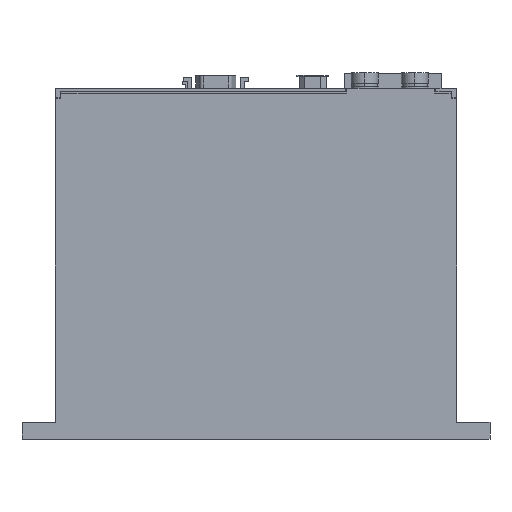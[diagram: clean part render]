
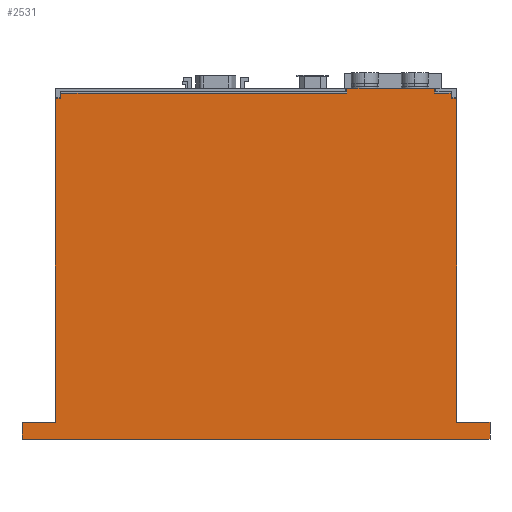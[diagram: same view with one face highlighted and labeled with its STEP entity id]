
A CAD part, left-side view. The second image highlights one B-rep face of the part: STEP entity #2531.
In plain terms, the highlighted planar face has unit normal (-1, 0, 0).
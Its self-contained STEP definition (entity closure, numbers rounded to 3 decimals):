
#1700 = VERTEX_POINT ( 'NONE', #7888 ) ;
#1707 = VERTEX_POINT ( 'NONE', #7877 ) ;
#1709 = EDGE_CURVE ( 'NONE', #1707, #1700, #7876, .T. ) ;
#1742 = VERTEX_POINT ( 'NONE', #7941 ) ;
#1789 = VERTEX_POINT ( 'NONE', #8048 ) ;
#1791 = EDGE_CURVE ( 'NONE', #1789, #1707, #8047, .T. ) ;
#1836 = VERTEX_POINT ( 'NONE', #8101 ) ;
#1860 = EDGE_CURVE ( 'NONE', #1861, #1862, #8184, .T. ) ;
#1861 = VERTEX_POINT ( 'NONE', #8180 ) ;
#1862 = VERTEX_POINT ( 'NONE', #8179 ) ;
#2531 = ADVANCED_FACE ( 'NONE', ( #9242 ), #9241, .F. ) ;
#2532 = EDGE_LOOP ( 'NONE', ( #2533, #2536, #2539, #2541, #2542, #2608, #2610, #2611, #2612, #2615, #2617, #2595, #2597, #2598, #2600, #2601, #2603, #2604 ) ) ;
#2533 = ORIENTED_EDGE ( 'NONE', *, *, #2534, .T. ) ;
#2534 = EDGE_CURVE ( 'NONE', #2535, #1836, #9297, .T. ) ;
#2535 = VERTEX_POINT ( 'NONE', #9293 ) ;
#2536 = ORIENTED_EDGE ( 'NONE', *, *, #2537, .T. ) ;
#2537 = EDGE_CURVE ( 'NONE', #1836, #2538, #9292, .T. ) ;
#2538 = VERTEX_POINT ( 'NONE', #9288 ) ;
#2539 = ORIENTED_EDGE ( 'NONE', *, *, #2540, .F. ) ;
#2540 = EDGE_CURVE ( 'NONE', #1862, #2538, #9287, .T. ) ;
#2541 = ORIENTED_EDGE ( 'NONE', *, *, #1860, .F. ) ;
#2542 = ORIENTED_EDGE ( 'NONE', *, *, #2606, .T. ) ;
#2593 = EDGE_CURVE ( 'NONE', #1742, #2594, #9383, .T. ) ;
#2594 = VERTEX_POINT ( 'NONE', #9379 ) ;
#2595 = ORIENTED_EDGE ( 'NONE', *, *, #2596, .T. ) ;
#2596 = EDGE_CURVE ( 'NONE', #2594, #3548, #9378, .T. ) ;
#2597 = ORIENTED_EDGE ( 'NONE', *, *, #3601, .T. ) ;
#2598 = ORIENTED_EDGE ( 'NONE', *, *, #2599, .F. ) ;
#2599 = EDGE_CURVE ( 'NONE', #3566, #3546, #9374, .T. ) ;
#2600 = ORIENTED_EDGE ( 'NONE', *, *, #3575, .F. ) ;
#2601 = ORIENTED_EDGE ( 'NONE', *, *, #2602, .T. ) ;
#2602 = EDGE_CURVE ( 'NONE', #3573, #3620, #9370, .T. ) ;
#2603 = ORIENTED_EDGE ( 'NONE', *, *, #3619, .T. ) ;
#2604 = ORIENTED_EDGE ( 'NONE', *, *, #2605, .T. ) ;
#2605 = EDGE_CURVE ( 'NONE', #3621, #2535, #9366, .T. ) ;
#2606 = EDGE_CURVE ( 'NONE', #1861, #2607, #9362, .T. ) ;
#2607 = VERTEX_POINT ( 'NONE', #9423 ) ;
#2608 = ORIENTED_EDGE ( 'NONE', *, *, #2609, .T. ) ;
#2609 = EDGE_CURVE ( 'NONE', #2607, #1700, #9422, .T. ) ;
#2610 = ORIENTED_EDGE ( 'NONE', *, *, #1709, .F. ) ;
#2611 = ORIENTED_EDGE ( 'NONE', *, *, #1791, .F. ) ;
#2612 = ORIENTED_EDGE ( 'NONE', *, *, #2613, .T. ) ;
#2613 = EDGE_CURVE ( 'NONE', #1789, #2614, #9418, .T. ) ;
#2614 = VERTEX_POINT ( 'NONE', #9414 ) ;
#2615 = ORIENTED_EDGE ( 'NONE', *, *, #2616, .T. ) ;
#2616 = EDGE_CURVE ( 'NONE', #2614, #1742, #9413, .T. ) ;
#2617 = ORIENTED_EDGE ( 'NONE', *, *, #2593, .T. ) ;
#3546 = VERTEX_POINT ( 'NONE', #11041 ) ;
#3548 = VERTEX_POINT ( 'NONE', #11040 ) ;
#3566 = VERTEX_POINT ( 'NONE', #11070 ) ;
#3573 = VERTEX_POINT ( 'NONE', #11059 ) ;
#3575 = EDGE_CURVE ( 'NONE', #3573, #3566, #11058, .T. ) ;
#3601 = EDGE_CURVE ( 'NONE', #3548, #3546, #11130, .T. ) ;
#3619 = EDGE_CURVE ( 'NONE', #3620, #3621, #11162, .T. ) ;
#3620 = VERTEX_POINT ( 'NONE', #11158 ) ;
#3621 = VERTEX_POINT ( 'NONE', #11157 ) ;
#7873 = DIRECTION ( 'NONE',  ( 0., 0., -1. ) ) ;
#7874 = VECTOR ( 'NONE', #7873, 1000. ) ;
#7875 = CARTESIAN_POINT ( 'NONE',  ( -7., -135., 147.215 ) ) ;
#7876 = LINE ( 'NONE', #7875, #7874 ) ;
#7877 = CARTESIAN_POINT ( 'NONE',  ( -7., -135., 5. ) ) ;
#7888 = CARTESIAN_POINT ( 'NONE',  ( -7., -135., 0. ) ) ;
#7941 = CARTESIAN_POINT ( 'NONE',  ( -7., -123.55, 101.917 ) ) ;
#8044 = DIRECTION ( 'NONE',  ( 0., -1., 0. ) ) ;
#8045 = VECTOR ( 'NONE', #8044, 1000. ) ;
#8046 = CARTESIAN_POINT ( 'NONE',  ( -7., 5., 5. ) ) ;
#8047 = LINE ( 'NONE', #8046, #8045 ) ;
#8048 = CARTESIAN_POINT ( 'NONE',  ( -7., -125., 5. ) ) ;
#8101 = CARTESIAN_POINT ( 'NONE',  ( -7., -6.45, 101.917 ) ) ;
#8179 = CARTESIAN_POINT ( 'NONE',  ( -7., -5., 5. ) ) ;
#8180 = CARTESIAN_POINT ( 'NONE',  ( -7., 5., 5. ) ) ;
#8181 = DIRECTION ( 'NONE',  ( 0., -1., 0. ) ) ;
#8182 = VECTOR ( 'NONE', #8181, 1000. ) ;
#8183 = CARTESIAN_POINT ( 'NONE',  ( -7., 5., 5. ) ) ;
#8184 = LINE ( 'NONE', #8183, #8182 ) ;
#9237 = DIRECTION ( 'NONE',  ( 0., 1., 0. ) ) ;
#9238 = DIRECTION ( 'NONE',  ( 1., 0., 0. ) ) ;
#9239 = CARTESIAN_POINT ( 'NONE',  ( -7., 5., 147.215 ) ) ;
#9240 = AXIS2_PLACEMENT_3D ( 'NONE', #9239, #9238, #9237 ) ;
#9241 = PLANE ( 'NONE',  #9240 ) ;
#9242 = FACE_OUTER_BOUND ( 'NONE', #2532, .T. ) ;
#9284 = DIRECTION ( 'NONE',  ( 0., 0., 1. ) ) ;
#9285 = VECTOR ( 'NONE', #9284, 1000. ) ;
#9286 = CARTESIAN_POINT ( 'NONE',  ( -7., -5., 5. ) ) ;
#9287 = LINE ( 'NONE', #9286, #9285 ) ;
#9288 = CARTESIAN_POINT ( 'NONE',  ( -7., -5., 101.917 ) ) ;
#9289 = DIRECTION ( 'NONE',  ( 0., 1., 0. ) ) ;
#9290 = VECTOR ( 'NONE', #9289, 1000. ) ;
#9291 = CARTESIAN_POINT ( 'NONE',  ( -7., -105.12, 101.917 ) ) ;
#9292 = LINE ( 'NONE', #9291, #9290 ) ;
#9293 = CARTESIAN_POINT ( 'NONE',  ( -7., -6.65, 101.917 ) ) ;
#9294 = DIRECTION ( 'NONE',  ( 0., 1., 0. ) ) ;
#9295 = VECTOR ( 'NONE', #9294, 1000. ) ;
#9296 = CARTESIAN_POINT ( 'NONE',  ( -7., -6.65, 101.917 ) ) ;
#9297 = LINE ( 'NONE', #9296, #9295 ) ;
#9360 = VECTOR ( 'NONE', #9424, 1000. ) ;
#9361 = CARTESIAN_POINT ( 'NONE',  ( -7., 5., 147.215 ) ) ;
#9362 = LINE ( 'NONE', #9361, #9360 ) ;
#9363 = DIRECTION ( 'NONE',  ( 0., 0., -1. ) ) ;
#9364 = VECTOR ( 'NONE', #9363, 1000. ) ;
#9365 = CARTESIAN_POINT ( 'NONE',  ( -7., -6.65, 103.54 ) ) ;
#9366 = LINE ( 'NONE', #9365, #9364 ) ;
#9367 = DIRECTION ( 'NONE',  ( 0., 0., -1. ) ) ;
#9368 = VECTOR ( 'NONE', #9367, 1000. ) ;
#9369 = CARTESIAN_POINT ( 'NONE',  ( -7., -92.2, 132.835 ) ) ;
#9370 = LINE ( 'NONE', #9369, #9368 ) ;
#9371 = DIRECTION ( 'NONE',  ( 0., 0., -1. ) ) ;
#9372 = VECTOR ( 'NONE', #9371, 1000. ) ;
#9373 = CARTESIAN_POINT ( 'NONE',  ( -7., -118.4, 132.835 ) ) ;
#9374 = LINE ( 'NONE', #9373, #9372 ) ;
#9375 = DIRECTION ( 'NONE',  ( 0., 0., 1. ) ) ;
#9376 = VECTOR ( 'NONE', #9375, 1000. ) ;
#9377 = CARTESIAN_POINT ( 'NONE',  ( -7., -123.35, 101.917 ) ) ;
#9378 = LINE ( 'NONE', #9377, #9376 ) ;
#9379 = CARTESIAN_POINT ( 'NONE',  ( -7., -123.35, 101.917 ) ) ;
#9380 = DIRECTION ( 'NONE',  ( 0., 1., 0. ) ) ;
#9381 = VECTOR ( 'NONE', #9380, 1000. ) ;
#9382 = CARTESIAN_POINT ( 'NONE',  ( -7., -123.55, 101.917 ) ) ;
#9383 = LINE ( 'NONE', #9382, #9381 ) ;
#9410 = DIRECTION ( 'NONE',  ( 0., 1., 0. ) ) ;
#9411 = VECTOR ( 'NONE', #9410, 1000. ) ;
#9412 = CARTESIAN_POINT ( 'NONE',  ( -7., -223.152, 101.917 ) ) ;
#9413 = LINE ( 'NONE', #9412, #9411 ) ;
#9414 = CARTESIAN_POINT ( 'NONE',  ( -7., -125., 101.917 ) ) ;
#9415 = DIRECTION ( 'NONE',  ( 0., 0., 1. ) ) ;
#9416 = VECTOR ( 'NONE', #9415, 1000. ) ;
#9417 = CARTESIAN_POINT ( 'NONE',  ( -7., -125., 101.917 ) ) ;
#9418 = LINE ( 'NONE', #9417, #9416 ) ;
#9419 = DIRECTION ( 'NONE',  ( 0., -1., 0. ) ) ;
#9420 = VECTOR ( 'NONE', #9419, 1000. ) ;
#9421 = CARTESIAN_POINT ( 'NONE',  ( -7., 5., 0. ) ) ;
#9422 = LINE ( 'NONE', #9421, #9420 ) ;
#9423 = CARTESIAN_POINT ( 'NONE',  ( -7., 5., 0. ) ) ;
#9424 = DIRECTION ( 'NONE',  ( 0., 0., -1. ) ) ;
#11040 = CARTESIAN_POINT ( 'NONE',  ( -7., -123.35, 103.54 ) ) ;
#11041 = CARTESIAN_POINT ( 'NONE',  ( -7., -118.4, 103.54 ) ) ;
#11057 = CARTESIAN_POINT ( 'NONE',  ( -7., -92.2, 105. ) ) ;
#11058 = LINE ( 'NONE', #11057, #11120 ) ;
#11059 = CARTESIAN_POINT ( 'NONE',  ( -7., -92.2, 105. ) ) ;
#11070 = CARTESIAN_POINT ( 'NONE',  ( -7., -118.4, 105. ) ) ;
#11119 = DIRECTION ( 'NONE',  ( 0., -1., 0. ) ) ;
#11120 = VECTOR ( 'NONE', #11119, 1000. ) ;
#11127 = DIRECTION ( 'NONE',  ( 0., 1., 0. ) ) ;
#11128 = VECTOR ( 'NONE', #11127, 1000. ) ;
#11129 = CARTESIAN_POINT ( 'NONE',  ( -7., -123.35, 103.54 ) ) ;
#11130 = LINE ( 'NONE', #11129, #11128 ) ;
#11157 = CARTESIAN_POINT ( 'NONE',  ( -7., -6.65, 103.54 ) ) ;
#11158 = CARTESIAN_POINT ( 'NONE',  ( -7., -92.2, 103.54 ) ) ;
#11159 = DIRECTION ( 'NONE',  ( 0., 1., 0. ) ) ;
#11160 = VECTOR ( 'NONE', #11159, 1000. ) ;
#11161 = CARTESIAN_POINT ( 'NONE',  ( -7., -123.35, 103.54 ) ) ;
#11162 = LINE ( 'NONE', #11161, #11160 ) ;
